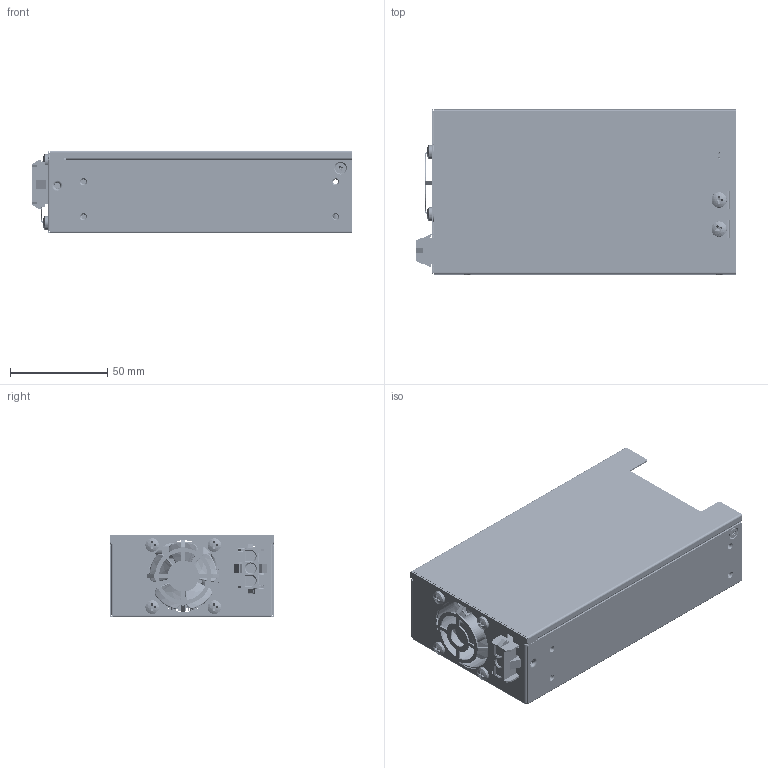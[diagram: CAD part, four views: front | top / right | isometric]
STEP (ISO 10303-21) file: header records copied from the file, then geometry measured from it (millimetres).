
FILE_DESCRIPTION (( 'STEP AP214' ), '1' );
FILE_NAME ('CUS600M_EF ALL ASM 拸泂え.STEP', '2020-02-27T05:37:53', ( '' ), ( '' ), 'SwSTEP 2.0', 'SolidWorks 2017', '' );
FILE_SCHEMA (( 'AUTOMOTIVE_DESIGN' ));
Length unit declared in the file: millimetre
Products named in the file (12): COVER_EF-20190926; 350767-1; CHASSIS_EF-20200111 PWG; SEMS SCREW M3X6 FE NI; INSULATION SHEET_EF-20190926; 40x40x20 FAN; CUS600M_EF ALL ASM 拸泂え; CUS600M ALL ASM-20190117; XHP-2; VHR-5N; FLAT HEAD SCREW M3X6 FE NI G; KA40X8(TECHNO)_00217925
Assembly tree (18 placements, depth 2):
  CUS600M_EF ALL ASM 拸泂え
    CUS600M ALL ASM-20190117
    CHASSIS_EF-20200111 PWG
    350767-1
    40x40x20 FAN
    INSULATION SHEET_EF-20190926
    COVER_EF-20190926
    VHR-5N
    XHP-2
    KA40X8(TECHNO)_00217925  x4
    SEMS SCREW M3X6 FE NI  x4
    FLAT HEAD SCREW M3X6 FE NI G  x2
Bounding box: 165.13 x 85 x 42.5 mm (x, y, z)
Volume: 223068.1 mm3; surface area: 326683.5 mm2
Topology: 212 solids, 213 shells, 8496 faces, 21728 edges, 13679 vertices
Faces by surface type: plane 3511, cylinder 2781, cone 1235, torus 715, bspline 204, sphere 50
Entity records: 326448 total; most frequent: CARTESIAN_POINT 59371, DIRECTION 41929, ORIENTED_EDGE 39728, EDGE_CURVE 19864, AXIS2_PLACEMENT_3D 15305, VERTEX_POINT 12559, VECTOR 11319, LINE 11319
